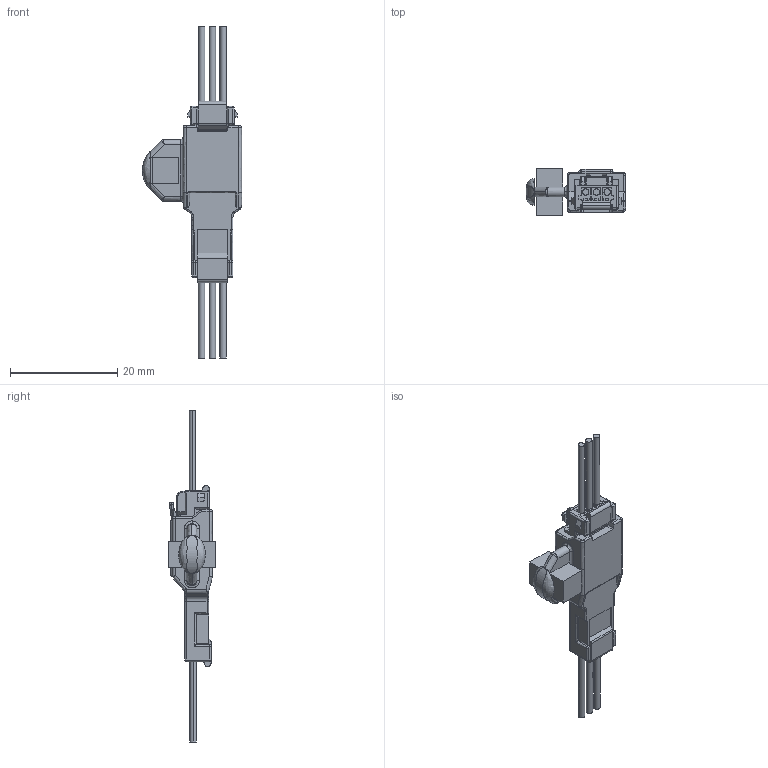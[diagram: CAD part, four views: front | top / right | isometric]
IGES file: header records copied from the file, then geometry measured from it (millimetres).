
Start section: SolidWorks IGES file using analytic representation for surfaces
Global section: file name: C:\Users\08803\Desktop\PDM\ISH全シリーズモデル(STEP)2017.2.6時点\中継\3P\ISH 3P INLINE CONNECTOR.IGS; native system: SolidWorks 2017; preprocessor: SolidWorks 2017; author: 08803; date: 180822.090505; units: millimetre
Bounding box: 18.5 x 8.8 x 61.95 mm (x, y, z)
Surface area: 2732.7 mm2 (no closed solid volume)
Topology: 0 solids, 0 shells, 840 faces, 5963 edges, 5918 vertices
Faces by surface type: bspline 503, revolution 337
